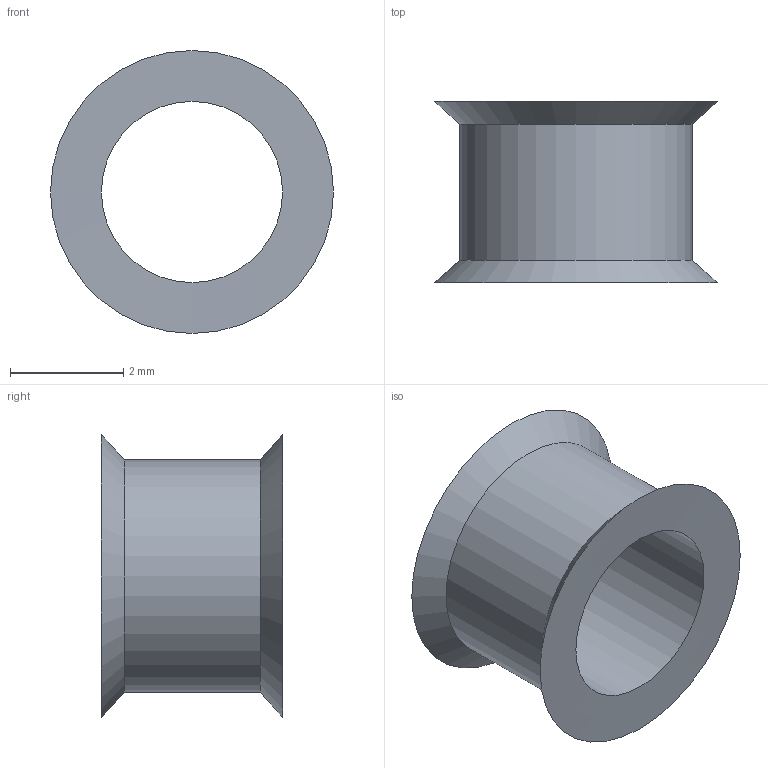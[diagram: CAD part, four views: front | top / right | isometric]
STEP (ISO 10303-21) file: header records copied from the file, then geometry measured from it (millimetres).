
FILE_DESCRIPTION(('STEP AP203'), '1');
FILE_NAME('ðîëèê 10øò', '', ('UNSPECIFIED'), ('UNSPECIFIED'), 'ASCON STEP Converter 1.3', 'ASCON Math Kernel', '');
FILE_SCHEMA(('CONFIG_CONTROL_DESIGN'));
Length unit declared in the file: millimetre
Bounding box: 5 x 3.21 x 5 mm (x, y, z)
Volume: 19 mm3; surface area: 103.6 mm2
Topology: 1 solids, 1 shells, 6 faces, 11 edges, 6 vertices
Faces by surface type: cone 3, cylinder 2, plane 1
Full cylindrical faces by diameter (mm): 3.2 x1, 4.1 x1
Entity records: 220 total; most frequent: DIRECTION 26, CARTESIAN_POINT 19, AXIS2_PLACEMENT_3D 13, EDGE_LOOP 12, ORIENTED_EDGE 12, FACE_OUTER_BOUND 10, COLOUR_RGB 7, FILL_AREA_STYLE_COLOUR 7
